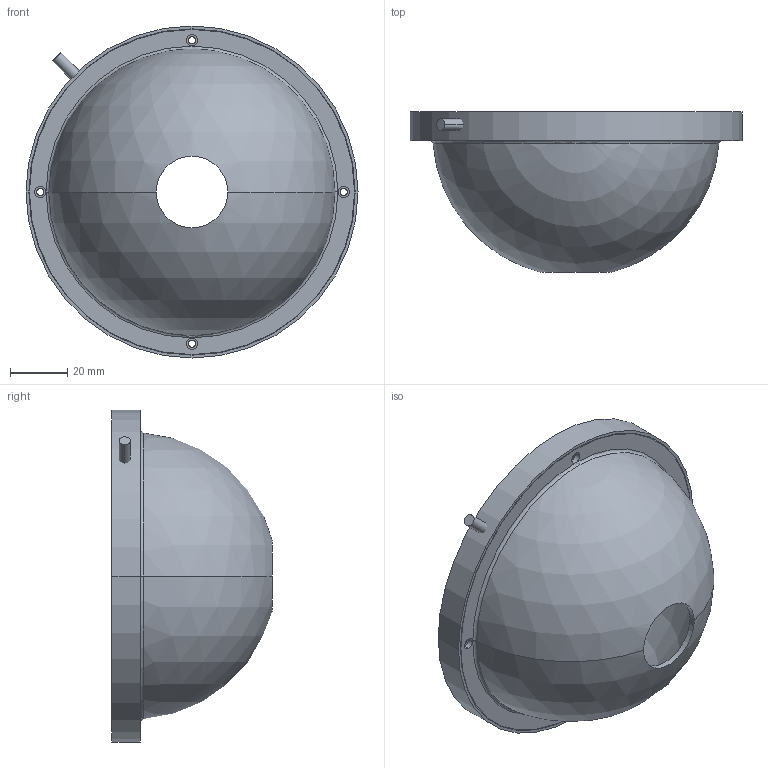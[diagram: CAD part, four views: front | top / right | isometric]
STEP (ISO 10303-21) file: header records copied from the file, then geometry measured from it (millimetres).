
FILE_DESCRIPTION (( 'STEP AP203' ), '1' );
FILE_NAME ('RD100-W.STEP', '2021-10-21T01:52:47', ( 'Windows 蚚誧' ), ( 'Microsoft' ), 'SwSTEP 2.0', 'SolidWorks 2016', '' );
FILE_SCHEMA (( 'CONFIG_CONTROL_DESIGN' ));
Length unit declared in the file: millimetre
Products named in the file (1): RD100-W
Bounding box: 116 x 56 x 116 mm (x, y, z)
Volume: 73035.3 mm3; surface area: 61795.6 mm2
Topology: 3 solids, 3 shells, 58 faces, 122 edges, 78 vertices
Faces by surface type: cylinder 36, plane 14, torus 4, sphere 4
Entity records: 1873 total; most frequent: CARTESIAN_POINT 455, DIRECTION 318, ORIENTED_EDGE 244, AXIS2_PLACEMENT_3D 141, EDGE_CURVE 122, CIRCLE 82, VERTEX_POINT 78, EDGE_LOOP 78
